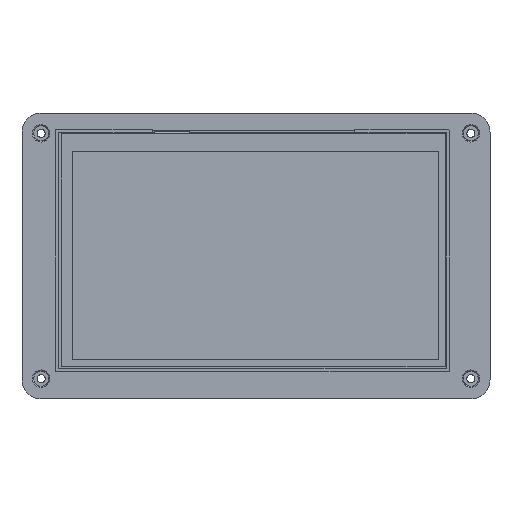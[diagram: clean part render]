
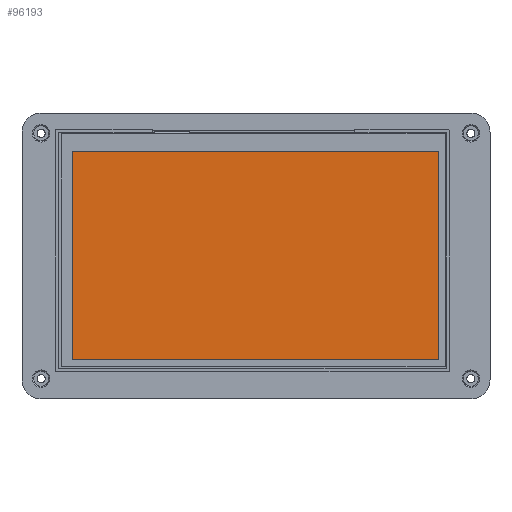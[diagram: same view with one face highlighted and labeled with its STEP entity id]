
A CAD part, top view. The second image highlights one B-rep face of the part: STEP entity #96193.
In plain terms, the highlighted planar face has unit normal (0, 0, 1).
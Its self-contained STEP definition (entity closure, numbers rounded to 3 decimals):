
#33781=DIRECTION('',(0.,1.,0.));
#33782=VECTOR('',#33781,89.1);
#33783=CARTESIAN_POINT('',(78.25,-51.17,1.8));
#33784=LINE('',#33783,#33782);
#33785=DIRECTION('',(1.,0.,0.));
#33786=VECTOR('',#33785,156.7);
#33787=CARTESIAN_POINT('',(-78.45,-51.17,1.8));
#33788=LINE('',#33787,#33786);
#33789=DIRECTION('',(0.,-1.,0.));
#33790=VECTOR('',#33789,89.1);
#33791=CARTESIAN_POINT('',(-78.45,37.93,1.8));
#33792=LINE('',#33791,#33790);
#33793=DIRECTION('',(-1.,0.,0.));
#33794=VECTOR('',#33793,156.7);
#33795=CARTESIAN_POINT('',(78.25,37.93,1.8));
#33796=LINE('',#33795,#33794);
#53294=CARTESIAN_POINT('',(78.25,-51.17,1.8));
#53295=CARTESIAN_POINT('',(78.25,37.93,1.8));
#53296=VERTEX_POINT('',#53294);
#53297=VERTEX_POINT('',#53295);
#53298=CARTESIAN_POINT('',(-78.45,37.93,1.8));
#53299=VERTEX_POINT('',#53298);
#53300=CARTESIAN_POINT('',(-78.45,-51.17,1.8));
#53301=VERTEX_POINT('',#53300);
#96182=CARTESIAN_POINT('',(0.,-7.,1.8));
#96183=DIRECTION('',(0.,0.,1.));
#96184=DIRECTION('',(1.,0.,0.));
#96185=AXIS2_PLACEMENT_3D('',#96182,#96183,#96184);
#96186=PLANE('',#96185);
#96187=ORIENTED_EDGE('',*,*,#96134,.F.);
#96188=ORIENTED_EDGE('',*,*,#96149,.F.);
#96189=ORIENTED_EDGE('',*,*,#96163,.F.);
#96190=ORIENTED_EDGE('',*,*,#96176,.F.);
#96191=EDGE_LOOP('',(#96187,#96188,#96189,#96190));
#96192=FACE_OUTER_BOUND('',#96191,.F.);
#96193=ADVANCED_FACE('',(#96192),#96186,.T.);
#96134=EDGE_CURVE('',#53296,#53297,#33784,.T.);
#96149=EDGE_CURVE('',#53301,#53296,#33788,.T.);
#96163=EDGE_CURVE('',#53299,#53301,#33792,.T.);
#96176=EDGE_CURVE('',#53297,#53299,#33796,.T.);
